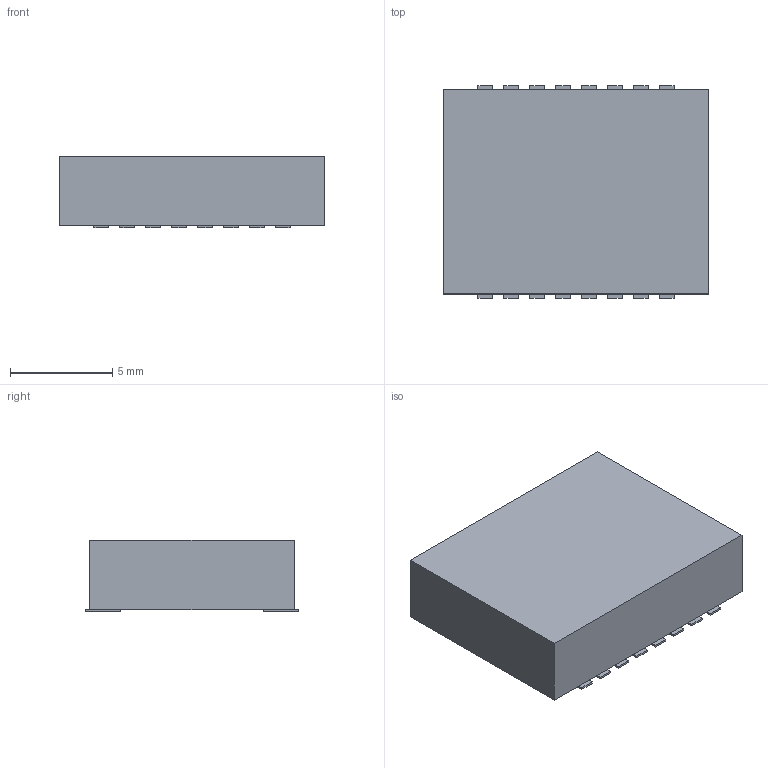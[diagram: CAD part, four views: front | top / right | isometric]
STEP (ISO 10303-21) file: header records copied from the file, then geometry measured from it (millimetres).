
FILE_DESCRIPTION(('FreeCAD Model'),'2;1');
FILE_NAME('/var/www/3D/0T/13001603.1.8.stp','2020-10-01T13:13:36',( 'Author'),(''),'Open CASCADE STEP processor 6.9','FreeCAD','Unknown' );
FILE_SCHEMA(('AUTOMOTIVE_DESIGN { 1 0 10303 214 1 1 1 1 }'));
Length unit declared in the file: millimetre
Products named in the file (3): ASSEMBLY; Body; Pins
Assembly tree (2 placements, depth 2):
  ASSEMBLY
    Body
    Pins
Bounding box: 13 x 10.42 x 3.5 mm (x, y, z)
Volume: 444 mm3; surface area: 463.8 mm2
Topology: 17 solids, 17 shells, 102 faces, 204 edges, 136 vertices
Faces by surface type: plane 102
Entity records: 5411 total; most frequent: CARTESIAN_POINT 853, DIRECTION 822, LINE 612, VECTOR 612, ORIENTED_EDGE 408, PCURVE 408, DEFINITIONAL_REPRESENTATION 408, EDGE_CURVE 204
